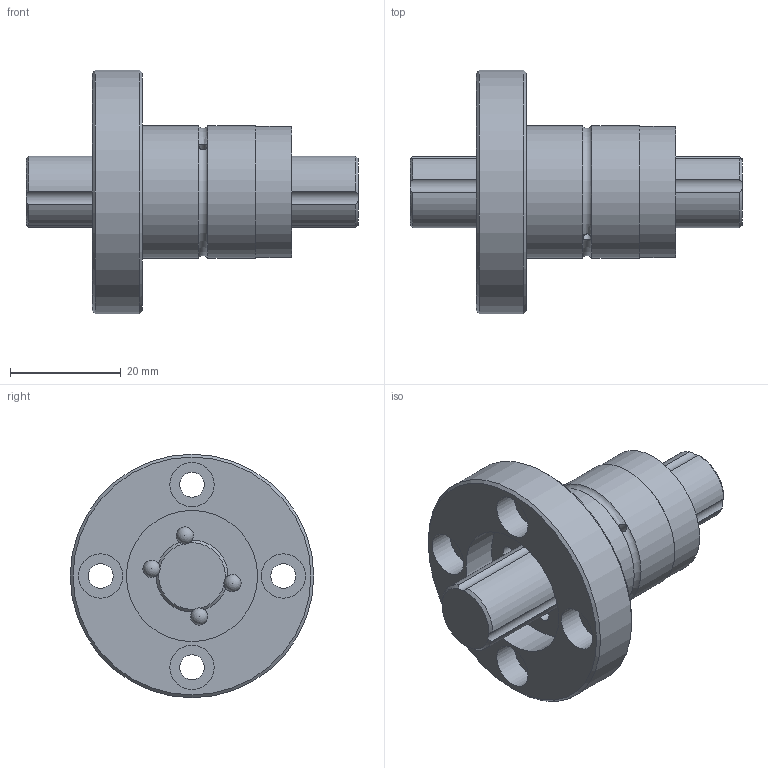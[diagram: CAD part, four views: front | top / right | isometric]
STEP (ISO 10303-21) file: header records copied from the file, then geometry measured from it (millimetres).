
FILE_DESCRIPTION(/* description */ ('Unknown'),/* implementation_level */ '2;1');
FILE_NAME(/* name */ 'TLF013-D-L60',/* time_stamp */ '2024-12-16T13:50:56+08:00',/* author */ ('Unknown'),/* organization */ ('Unknown'),/* preprocessor_version */ 'ST-DEVELOPER v18.102',/* originating_system */ 'Solid Edge',/* authorisation */ 'Unknown');
FILE_SCHEMA (('AUTOMOTIVE_DESIGN {1 0 10303 214 3 1 1}'));
Length unit declared in the file: millimetre
Products named in the file (3): TLF013-D-L60; TLF013-D-xxxx; TLF013
Assembly tree (2 placements, depth 2):
  TLF013-D-L60
    TLF013-D-xxxx
    TLF013
Bounding box: 60 x 44 x 44 mm (x, y, z)
Volume: 25001.1 mm3; surface area: 12166.6 mm2
Topology: 2 solids, 2 shells, 73 faces, 240 edges, 162 vertices
Faces by surface type: cylinder 31, sphere 20, plane 11, cone 10, torus 1
Full cylindrical faces by diameter (mm): 1.5 x2, 4.5 x4, 8 x4, 23.7 x2, 24 x2, 44 x1
Entity records: 2965 total; most frequent: CARTESIAN_POINT 1228, DIRECTION 336, ORIENTED_EDGE 280, EDGE_LOOP 164, FACE_BOUND 164, AXIS2_PLACEMENT_3D 160, EDGE_CURVE 140, VERTEX_POINT 116
